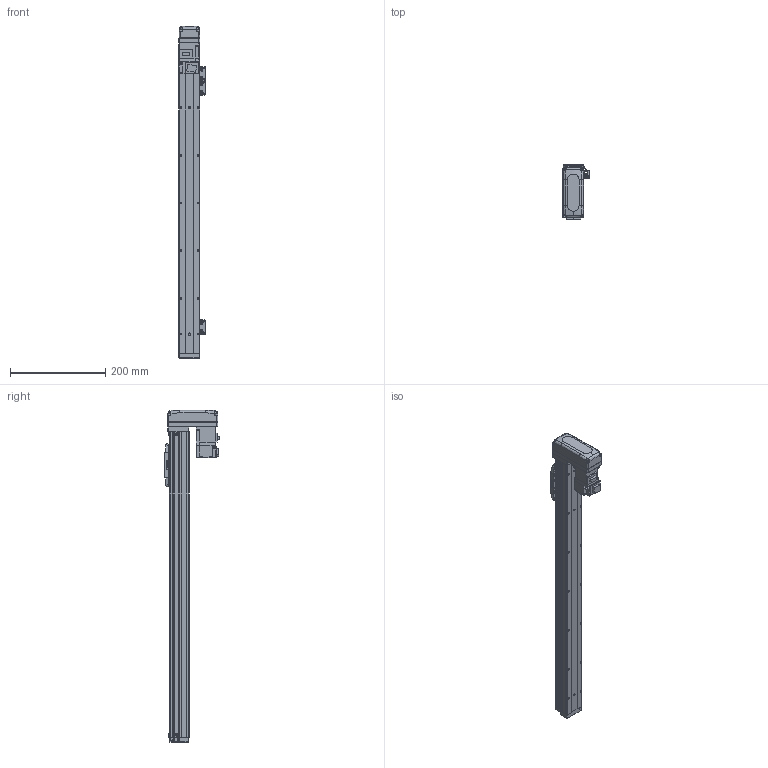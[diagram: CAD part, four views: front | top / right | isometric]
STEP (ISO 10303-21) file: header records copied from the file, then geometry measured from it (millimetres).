
FILE_DESCRIPTION (( 'STEP AP203' ), '1' );
FILE_NAME ('BTH40-500-BM-M05-C4.step', '2021-12-16T00:19:15', ( '微软用户' ), ( '微软中国' ), 'SwSTEP 2.0', 'SolidWorks 2020', '' );
FILE_SCHEMA (( 'CONFIG_CONTROL_DESIGN' ));
Length unit declared in the file: millimetre
Products named in the file (19): GBT 70.3-M3℅6; BTH40-006; GBT96.1-2002 3×0.8; BTH40-027-1; BTH-M3X5X6; BTH40-022; BTH50-026; GBT70.1-2000 M3×16; GBT 70.1-M2.5×6; BTH40-500-BM-M05-C4; BTH50-028; BTH40-004; BTH50-023; BTH40-013; BTH40-001-50_BTH40-001-500; BTH50-024; HG-KR13; BTH40-003; GBT 70.1-M3℅6
Assembly tree (47 placements, depth 2):
  BTH40-500-BM-M05-C4
    BTH40-001-50_BTH40-001-500
    BTH40-003
    BTH40-006
    BTH-M3X5X6  x8
    GBT70.1-2000 M3×16  x4
    BTH50-028  x2
    BTH50-023  x3
    BTH50-024  x3
    GBT 70.1-M3℅6  x6
    GBT96.1-2002 3×0.8  x6
    BTH40-022
    GBT 70.1-M2.5×6  x2
    BTH40-004
    BTH40-013
    HG-KR13
    GBT 70.3-M3℅6  x4
    BTH40-027-1
    BTH50-026
Bounding box: 55.2 x 115.8 x 696 mm (x, y, z)
Volume: 1278129 mm3; surface area: 226648.3 mm2
Topology: 49 solids, 49 shells, 1983 faces, 4659 edges, 2866 vertices
Faces by surface type: plane 1052, cylinder 495, cone 270, torus 128, bspline 34, sphere 4
Entity records: 39691 total; most frequent: CARTESIAN_POINT 7594, DIRECTION 6224, ORIENTED_EDGE 5964, EDGE_CURVE 2982, AXIS2_PLACEMENT_3D 2131, VECTOR 1962, LINE 1962, VERTEX_POINT 1853
